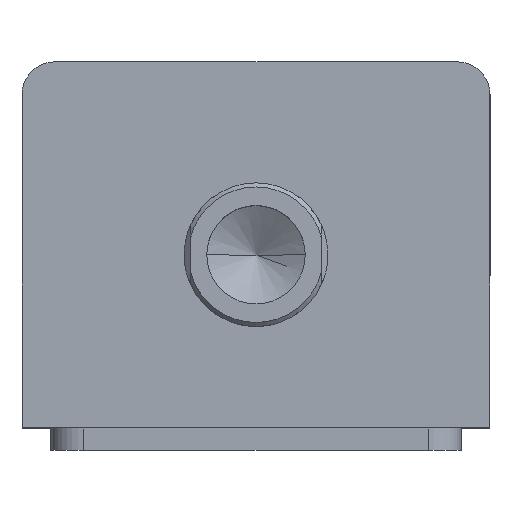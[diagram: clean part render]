
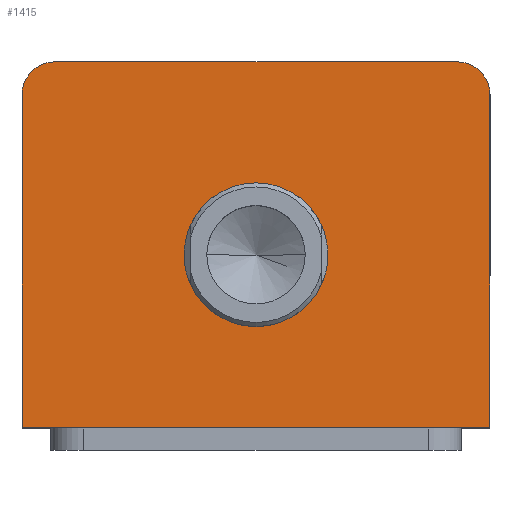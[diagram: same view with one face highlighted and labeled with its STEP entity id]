
A CAD part, top view. The second image highlights one B-rep face of the part: STEP entity #1415.
In plain terms, the highlighted planar face has unit normal (0, 0, 1).
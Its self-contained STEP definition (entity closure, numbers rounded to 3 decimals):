
#36 = VECTOR ( 'NONE', #816, 1000. ) ;
#40 = LINE ( 'NONE', #815, #36 ) ;
#49 = CIRCLE ( 'NONE', #1016, 8. ) ;
#110 = CIRCLE ( 'NONE', #1027, 8. ) ;
#208 = EDGE_CURVE ( 'NONE', #3424, #3423, #3402, .T. ) ;
#447 = DIRECTION ( 'NONE',  ( 1., 0., 0. ) ) ;
#448 = DIRECTION ( 'NONE',  ( 0., 0., 1. ) ) ;
#456 = CARTESIAN_POINT ( 'NONE',  ( 0., 0., 162. ) ) ;
#457 = PLANE ( 'NONE',  #1101 ) ;
#552 = EDGE_CURVE ( 'NONE', #1529, #3431, #40, .T. ) ;
#570 = CIRCLE ( 'NONE', #1043, 17.5 ) ;
#578 = VECTOR ( 'NONE', #742, 1000. ) ;
#581 = LINE ( 'NONE', #744, #578 ) ;
#592 = EDGE_CURVE ( 'NONE', #1505, #1529, #49, .T. ) ;
#607 = VECTOR ( 'NONE', #789, 1000. ) ;
#608 = LINE ( 'NONE', #781, #607 ) ;
#723 = DIRECTION ( 'NONE',  ( 1., 0., 0. ) ) ;
#724 = DIRECTION ( 'NONE',  ( 0., 0., 1. ) ) ;
#726 = CARTESIAN_POINT ( 'NONE',  ( 0., -2.5, 162. ) ) ;
#742 = DIRECTION ( 'NONE',  ( 1., 0., 0. ) ) ;
#744 = CARTESIAN_POINT ( 'NONE',  ( -57., -44.5, 162. ) ) ;
#781 = CARTESIAN_POINT ( 'NONE',  ( 57., 44.5, 162. ) ) ;
#789 = DIRECTION ( 'NONE',  ( 0., 1., 0. ) ) ;
#792 = DIRECTION ( 'NONE',  ( 1., 0., 0. ) ) ;
#793 = DIRECTION ( 'NONE',  ( 0., 0., 1. ) ) ;
#794 = CARTESIAN_POINT ( 'NONE',  ( -49., 36.5, 162. ) ) ;
#815 = CARTESIAN_POINT ( 'NONE',  ( -57., 44.5, 162. ) ) ;
#816 = DIRECTION ( 'NONE',  ( 0., -1., 0. ) ) ;
#834 = DIRECTION ( 'NONE',  ( -1., 0., 0. ) ) ;
#835 = CARTESIAN_POINT ( 'NONE',  ( -57., 44.5, 162. ) ) ;
#889 = DIRECTION ( 'NONE',  ( 1., 0., 0. ) ) ;
#892 = DIRECTION ( 'NONE',  ( 0., 0., 1. ) ) ;
#893 = CARTESIAN_POINT ( 'NONE',  ( 49., 36.5, 162. ) ) ;
#910 = EDGE_CURVE ( 'NONE', #3445, #1498, #110, .T. ) ;
#923 = EDGE_CURVE ( 'NONE', #1498, #1505, #1334, .T. ) ;
#940 = EDGE_CURVE ( 'NONE', #3426, #3445, #608, .T. ) ;
#955 = EDGE_CURVE ( 'NONE', #3431, #3426, #581, .T. ) ;
#961 = EDGE_CURVE ( 'NONE', #3423, #3424, #570, .T. ) ;
#1009 = AXIS2_PLACEMENT_3D ( 'NONE', #2539, #2538, #2537 ) ;
#1016 = AXIS2_PLACEMENT_3D ( 'NONE', #794, #793, #792 ) ;
#1027 = AXIS2_PLACEMENT_3D ( 'NONE', #893, #892, #889 ) ;
#1043 = AXIS2_PLACEMENT_3D ( 'NONE', #726, #724, #723 ) ;
#1101 = AXIS2_PLACEMENT_3D ( 'NONE', #456, #448, #447 ) ;
#1334 = LINE ( 'NONE', #835, #3119 ) ;
#1415 = ADVANCED_FACE ( 'NONE', ( #2090, #2093 ), #457, .T. ) ;
#1498 = VERTEX_POINT ( 'NONE', #3338 ) ;
#1505 = VERTEX_POINT ( 'NONE', #3329 ) ;
#1529 = VERTEX_POINT ( 'NONE', #3300 ) ;
#1792 = ORIENTED_EDGE ( 'NONE', *, *, #961, .F. ) ;
#1793 = ORIENTED_EDGE ( 'NONE', *, *, #208, .F. ) ;
#1794 = ORIENTED_EDGE ( 'NONE', *, *, #923, .T. ) ;
#1795 = ORIENTED_EDGE ( 'NONE', *, *, #592, .T. ) ;
#1796 = ORIENTED_EDGE ( 'NONE', *, *, #552, .T. ) ;
#1797 = ORIENTED_EDGE ( 'NONE', *, *, #955, .T. ) ;
#1798 = ORIENTED_EDGE ( 'NONE', *, *, #940, .T. ) ;
#1799 = ORIENTED_EDGE ( 'NONE', *, *, #910, .T. ) ;
#2090 = FACE_BOUND ( 'NONE', #3409, .T. ) ;
#2093 = FACE_OUTER_BOUND ( 'NONE', #3467, .T. ) ;
#2537 = DIRECTION ( 'NONE',  ( 1., 0., 0. ) ) ;
#2538 = DIRECTION ( 'NONE',  ( 0., 0., 1. ) ) ;
#2539 = CARTESIAN_POINT ( 'NONE',  ( 0., -2.5, 162. ) ) ;
#2866 = CARTESIAN_POINT ( 'NONE',  ( -17.5, -2.5, 162. ) ) ;
#2908 = CARTESIAN_POINT ( 'NONE',  ( 57., 36.5, 162. ) ) ;
#2911 = CARTESIAN_POINT ( 'NONE',  ( 17.5, -2.5, 162. ) ) ;
#3033 = CARTESIAN_POINT ( 'NONE',  ( -57., -44.5, 162. ) ) ;
#3057 = CARTESIAN_POINT ( 'NONE',  ( 57., -44.5, 162. ) ) ;
#3119 = VECTOR ( 'NONE', #834, 1000. ) ;
#3300 = CARTESIAN_POINT ( 'NONE',  ( -57., 36.5, 162. ) ) ;
#3329 = CARTESIAN_POINT ( 'NONE',  ( -49., 44.5, 162. ) ) ;
#3338 = CARTESIAN_POINT ( 'NONE',  ( 49., 44.5, 162. ) ) ;
#3402 = CIRCLE ( 'NONE', #1009, 17.5 ) ;
#3409 = EDGE_LOOP ( 'NONE', ( #1792, #1793 ) ) ;
#3423 = VERTEX_POINT ( 'NONE', #2911 ) ;
#3424 = VERTEX_POINT ( 'NONE', #2866 ) ;
#3426 = VERTEX_POINT ( 'NONE', #3057 ) ;
#3431 = VERTEX_POINT ( 'NONE', #3033 ) ;
#3445 = VERTEX_POINT ( 'NONE', #2908 ) ;
#3467 = EDGE_LOOP ( 'NONE', ( #1794, #1795, #1796, #1797, #1798, #1799 ) ) ;
